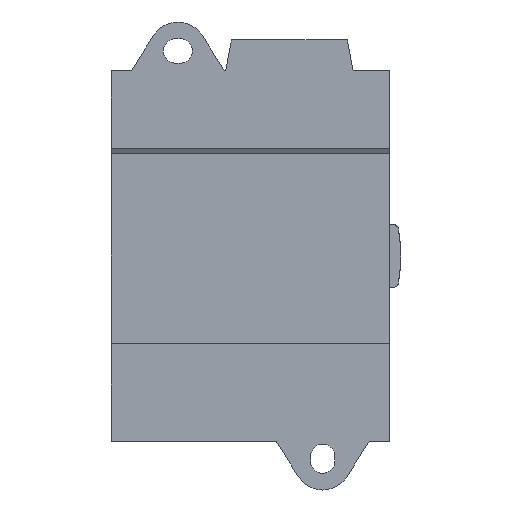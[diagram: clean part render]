
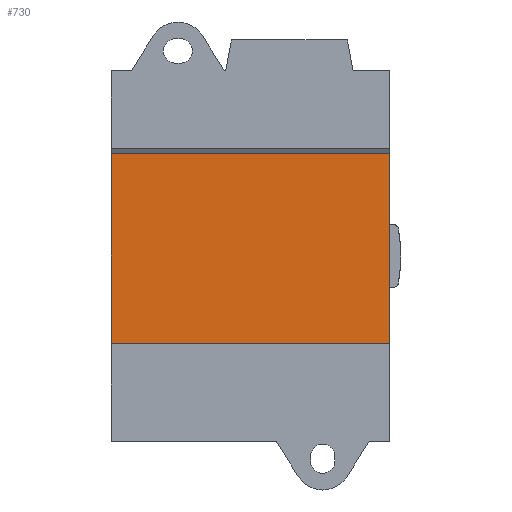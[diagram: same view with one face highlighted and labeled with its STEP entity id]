
A CAD part, front view. The second image highlights one B-rep face of the part: STEP entity #730.
In plain terms, the highlighted planar face has unit normal (0, -1, 0).
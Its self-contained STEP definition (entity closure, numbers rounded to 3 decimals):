
#178 = LINE ( 'NONE', #15319, #13458 ) ;
#204 = AXIS2_PLACEMENT_3D ( 'NONE', #14244, #15237, #12925 ) ;
#295 = LINE ( 'NONE', #12071, #12801 ) ;
#324 = CARTESIAN_POINT ( 'NONE',  ( -24., 4., 17.65 ) ) ;
#698 = VERTEX_POINT ( 'NONE', #12973 ) ;
#730 = ADVANCED_FACE ( 'NONE', ( #10543 ), #3005, .F. ) ;
#2136 = LINE ( 'NONE', #14269, #14634 ) ;
#2515 = EDGE_CURVE ( 'NONE', #14121, #7409, #4482, .T. ) ;
#3005 = PLANE ( 'NONE',  #204 ) ;
#3354 = DIRECTION ( 'NONE',  ( 0., 0., -1. ) ) ;
#4309 = CARTESIAN_POINT ( 'NONE',  ( -24., 4., -17.65 ) ) ;
#4482 = LINE ( 'NONE', #4309, #14062 ) ;
#5920 = ORIENTED_EDGE ( 'NONE', *, *, #9384, .F. ) ;
#6751 = CARTESIAN_POINT ( 'NONE',  ( -24., 4., -17.65 ) ) ;
#7409 = VERTEX_POINT ( 'NONE', #16075 ) ;
#7834 = DIRECTION ( 'NONE',  ( 0., 0., -1. ) ) ;
#8427 = ORIENTED_EDGE ( 'NONE', *, *, #14207, .F. ) ;
#8605 = ORIENTED_EDGE ( 'NONE', *, *, #10575, .T. ) ;
#9384 = EDGE_CURVE ( 'NONE', #10579, #698, #2136, .T. ) ;
#9411 = ORIENTED_EDGE ( 'NONE', *, *, #2515, .T. ) ;
#10543 = FACE_OUTER_BOUND ( 'NONE', #15569, .T. ) ;
#10575 = EDGE_CURVE ( 'NONE', #10579, #14121, #178, .T. ) ;
#10579 = VERTEX_POINT ( 'NONE', #324 ) ;
#12071 = CARTESIAN_POINT ( 'NONE',  ( 24., 4., 32. ) ) ;
#12801 = VECTOR ( 'NONE', #3354, 1000. ) ;
#12925 = DIRECTION ( 'NONE',  ( 0., 0., 1. ) ) ;
#12973 = CARTESIAN_POINT ( 'NONE',  ( 24., 4., 17.65 ) ) ;
#13076 = DIRECTION ( 'NONE',  ( 1., 0., 0. ) ) ;
#13458 = VECTOR ( 'NONE', #7834, 1000. ) ;
#14062 = VECTOR ( 'NONE', #13076, 1000. ) ;
#14121 = VERTEX_POINT ( 'NONE', #6751 ) ;
#14207 = EDGE_CURVE ( 'NONE', #698, #7409, #295, .T. ) ;
#14244 = CARTESIAN_POINT ( 'NONE',  ( -24., 4., -17.65 ) ) ;
#14269 = CARTESIAN_POINT ( 'NONE',  ( -24., 4., 17.65 ) ) ;
#14634 = VECTOR ( 'NONE', #15535, 1000. ) ;
#15237 = DIRECTION ( 'NONE',  ( 0., 1., 0. ) ) ;
#15319 = CARTESIAN_POINT ( 'NONE',  ( -24., 4., 32. ) ) ;
#15535 = DIRECTION ( 'NONE',  ( 1., 0., 0. ) ) ;
#15569 = EDGE_LOOP ( 'NONE', ( #5920, #8605, #9411, #8427 ) ) ;
#16075 = CARTESIAN_POINT ( 'NONE',  ( 24., 4., -17.65 ) ) ;
